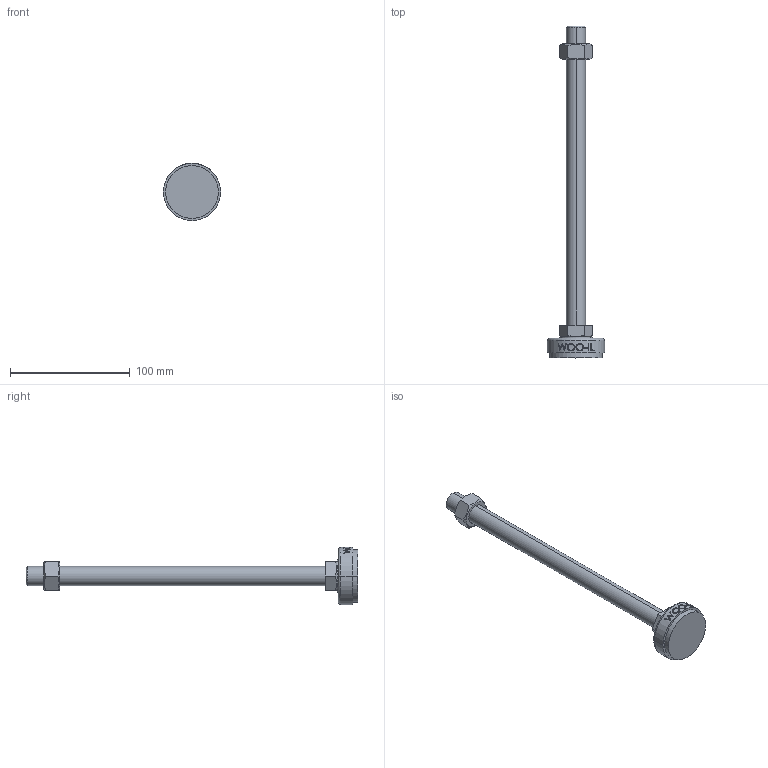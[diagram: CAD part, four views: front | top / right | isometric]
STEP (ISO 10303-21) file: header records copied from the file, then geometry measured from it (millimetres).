
FILE_DESCRIPTION (( 'STEP AP214' ), '1' );
FILE_NAME ('NS48-M16-250.step', '2021-01-11T05:44:19', ( '' ), ( '' ), 'SwSTEP 2.0', 'SolidWorks 2019', '' );
FILE_SCHEMA (( 'AUTOMOTIVE_DESIGN' ));
Length unit declared in the file: millimetre
Products named in the file (2): NS48-M16-250
Bounding box: 48 x 277.5 x 48 mm (x, y, z)
Volume: 88002 mm3; surface area: 22562.4 mm2
Topology: 3 solids, 3 shells, 96 faces, 223 edges, 144 vertices
Faces by surface type: plane 48, cylinder 18, bspline 16, cone 12, torus 2
Entity records: 4250 total; most frequent: CARTESIAN_POINT 2125, ORIENTED_EDGE 446, DIRECTION 381, EDGE_CURVE 223, VERTEX_POINT 144, AXIS2_PLACEMENT_3D 142, EDGE_LOOP 109, VECTOR 97
